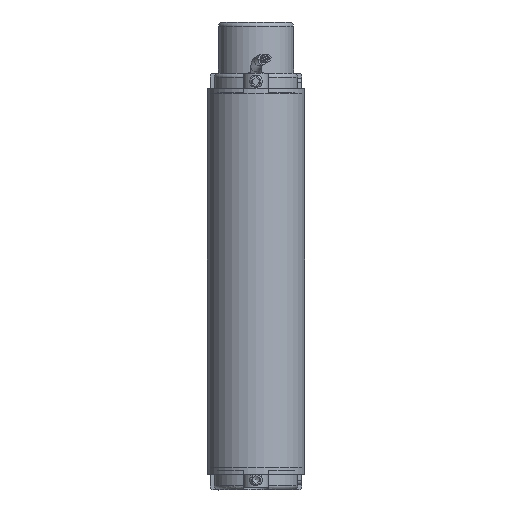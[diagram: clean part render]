
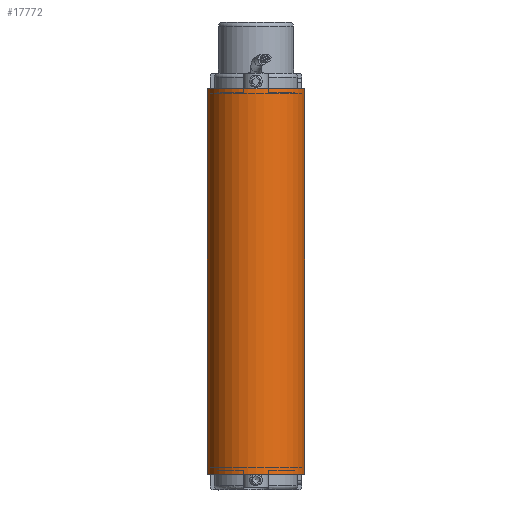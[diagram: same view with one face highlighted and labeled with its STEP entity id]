
A CAD part, front view. The second image highlights one B-rep face of the part: STEP entity #17772.
In plain terms, the highlighted cylindrical face has radius 23.3 mm (diameter 46.6 mm), a partial arc.
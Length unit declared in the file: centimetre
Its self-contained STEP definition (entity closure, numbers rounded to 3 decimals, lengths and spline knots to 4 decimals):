
#1363=FACE_OUTER_BOUND('',#2342,.T.);
#2342=EDGE_LOOP('',(#12638,#12639,#12640,#12641));
#3391=CIRCLE('',#19065,2.33);
#3393=CIRCLE('',#19069,2.33);
#4413=LINE('',#27503,#5795);
#4414=LINE('',#27507,#5796);
#5795=VECTOR('',#21870,1.);
#5796=VECTOR('',#21875,1.);
#7338=VERTEX_POINT('',#27454);
#7339=VERTEX_POINT('',#27456);
#7360=VERTEX_POINT('',#27501);
#7361=VERTEX_POINT('',#27505);
#9326=EDGE_CURVE('',#7339,#7338,#3391,.T.);
#9350=EDGE_CURVE('',#7360,#7338,#4413,.T.);
#9351=EDGE_CURVE('',#7360,#7361,#3393,.T.);
#9352=EDGE_CURVE('',#7339,#7361,#4414,.T.);
#12638=ORIENTED_EDGE('',*,*,#9326,.T.);
#12639=ORIENTED_EDGE('',*,*,#9350,.F.);
#12640=ORIENTED_EDGE('',*,*,#9351,.T.);
#12641=ORIENTED_EDGE('',*,*,#9352,.F.);
#16373=CYLINDRICAL_SURFACE('',#19068,2.33);
#17772=ADVANCED_FACE('',(#1363),#16373,.T.);
#19065=AXIS2_PLACEMENT_3D('',#27457,#21842,#21843);
#19068=AXIS2_PLACEMENT_3D('',#27504,#21871,#21872);
#19069=AXIS2_PLACEMENT_3D('',#27506,#21873,#21874);
#21842=DIRECTION('center_axis',(0.,0.,
1.));
#21843=DIRECTION('ref_axis',(-1.,0.,0.));
#21870=DIRECTION('',(0.,0.,-1.));
#21871=DIRECTION('center_axis',(0.,0.,
-1.));
#21872=DIRECTION('ref_axis',(-1.,0.,0.));
#21873=DIRECTION('center_axis',(0.,0.,
-1.));
#21874=DIRECTION('ref_axis',(-1.,0.,0.));
#21875=DIRECTION('',(0.,0.,1.));
#27454=CARTESIAN_POINT('',(2.33,-147.,-9.25));
#27456=CARTESIAN_POINT('',(-2.33,-147.,-9.25));
#27457=CARTESIAN_POINT('Origin',(0.,-147.,-9.25));
#27501=CARTESIAN_POINT('',(2.33,-147.,9.25));
#27503=CARTESIAN_POINT('',(2.33,-147.,0.));
#27504=CARTESIAN_POINT('Origin',(0.,-147.,0.));
#27505=CARTESIAN_POINT('',(-2.33,-147.,9.25));
#27506=CARTESIAN_POINT('Origin',(0.,-147.,9.25));
#27507=CARTESIAN_POINT('',(-2.33,-147.,0.));
